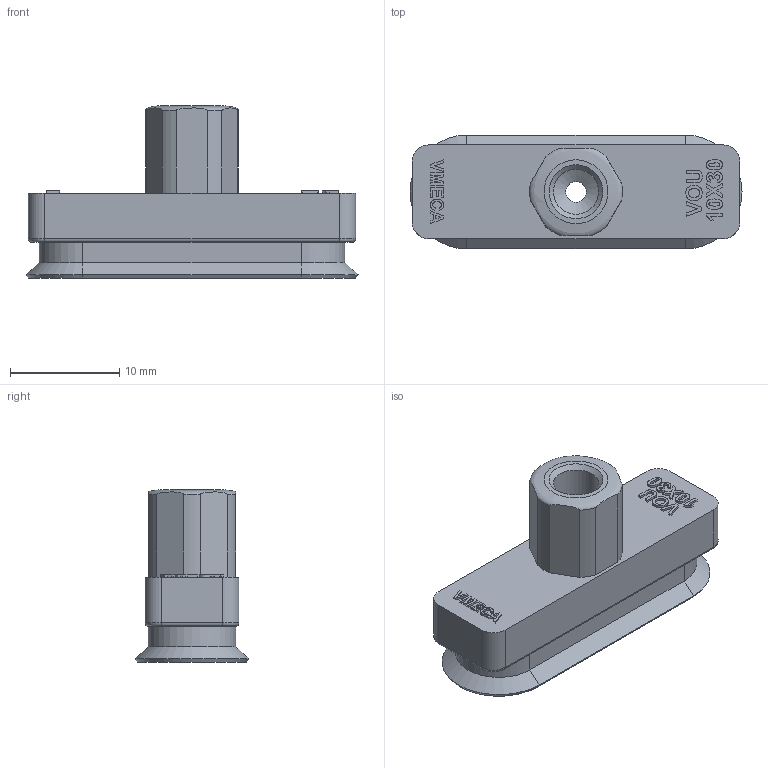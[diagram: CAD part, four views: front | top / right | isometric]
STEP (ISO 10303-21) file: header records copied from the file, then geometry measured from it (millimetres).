
FILE_DESCRIPTION( ( 'Unknown' ), '1' );
FILE_NAME( 'D:/New PAD/PAD-VOU/Part/STEP/VOU 10X30_M5F.stp', 'Unknown', ( 'Unknown' ), ( 'Unknown' ), 'XStep 1.0', 'Unknown', ' ' );
FILE_SCHEMA( ( 'automotive_design' ) );
Length unit declared in the file: millimetre
Products named in the file (1): 10X30_STP
Bounding box: 30.42 x 10.42 x 15.8 mm (x, y, z)
Volume: 2212.2 mm3; surface area: 1532.6 mm2
Topology: 1 solids, 1 shells, 160 faces, 397 edges, 258 vertices
Faces by surface type: extrusion 90, plane 39, cylinder 20, cone 6, torus 4, revolution 1
Full cylindrical faces by diameter (mm): 1.9 x1, 3 x1, 4.134 x2
Entity records: 6915 total; most frequent: CARTESIAN_POINT 2073, ORIENTED_EDGE 758, DIRECTION 547, EDGE_CURVE 379, VECTOR 308, VERTEX_POINT 253, LINE 218, B_SPLINE_CURVE_WITH_KNOTS 202
